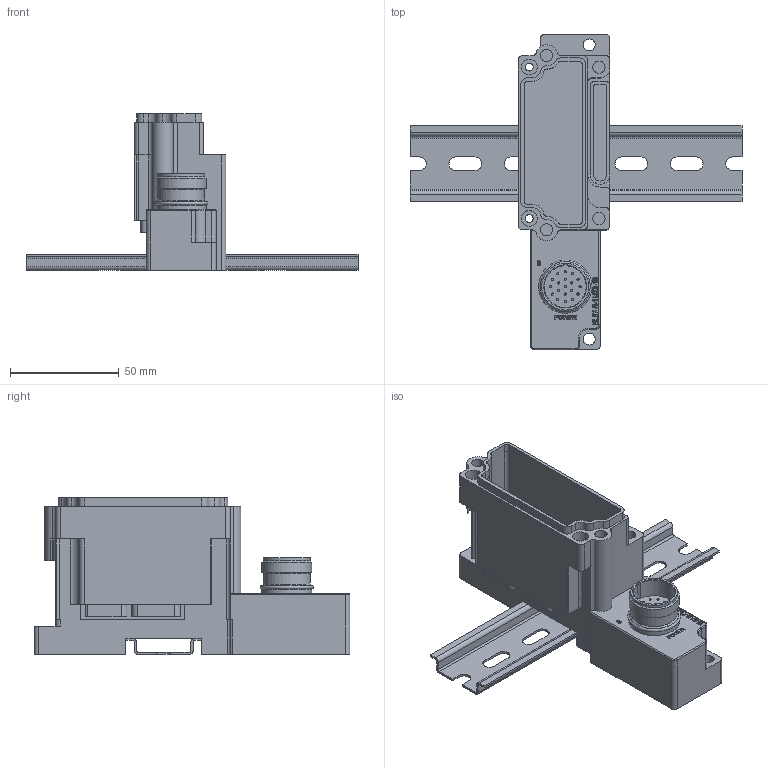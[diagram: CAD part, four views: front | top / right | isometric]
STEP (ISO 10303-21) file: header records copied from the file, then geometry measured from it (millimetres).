
FILE_DESCRIPTION((''),'2;1');
FILE_NAME('C:\TurckZip\BL67-B-1M23-19.stp','2007-11-13T14:56:57',('IKOROL'),(''),'Autodesk Inventor 2008','Autodesk Inventor 2008','');
FILE_SCHEMA(('AUTOMOTIVE_DESIGN { 1 2 10303 214 0 1 1 1 }'));
Length unit declared in the file: millimetre
Products named in the file (1): Part8
Bounding box: 152.4 x 145 x 72 mm (x, y, z)
Volume: 150584.2 mm3; surface area: 62385 mm2
Topology: 3 solids, 3 shells, 557 faces, 1487 edges, 983 vertices
Faces by surface type: plane 278, cylinder 155, bspline 111, cone 8, torus 5
Full cylindrical faces by diameter (mm): 1 x19, 3.6 x2, 5.5 x2, 5.6 x4, 7.3 x2, 15 x1, 20 x2, 20.2 x1, 20.4 x1, 21.4 x1, 21.6 x1, 22.9 x1, 23 x1, 23.5 x3
Entity records: 18985 total; most frequent: CARTESIAN_POINT 5033, ORIENTED_EDGE 2866, DIRECTION 2417, EDGE_CURVE 1433, VERTEX_POINT 978, VECTOR 895, LINE 895, AXIS2_PLACEMENT_3D 761
